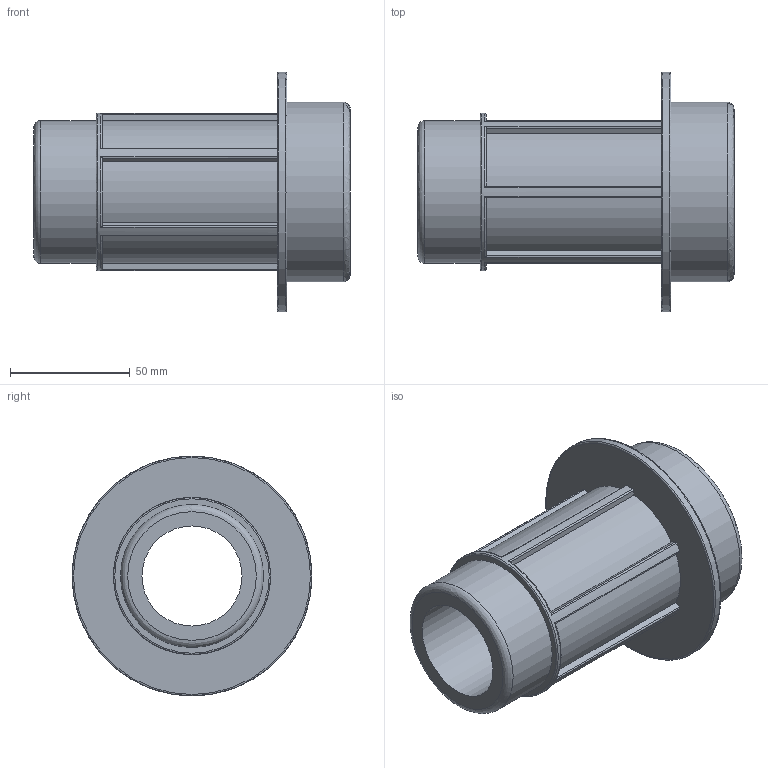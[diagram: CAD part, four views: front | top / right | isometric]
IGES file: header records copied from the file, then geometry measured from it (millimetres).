
Global section: file name: 078901075020.ipt; native system: Autodesk Inventor 2015; preprocessor: unknown; author: KIM; date: 20180409.130906; units: millimetre
Bounding box: 132 x 100 x 100 mm (x, y, z)
Volume: 257729.5 mm3; surface area: 59447.6 mm2
Topology: 1 solids, 1 shells, 57 faces, 163 edges, 111 vertices
Faces by surface type: plane 23, cylinder 22, revolution 12
Full cylindrical faces by diameter (mm): 59.614 x1, 65.575 x1, 75 x1, 100 x1
